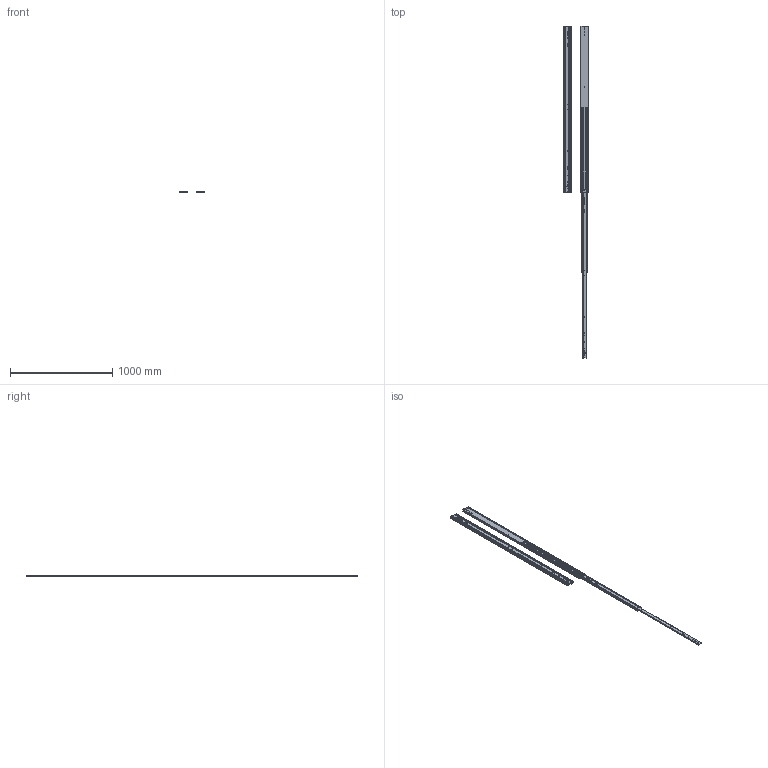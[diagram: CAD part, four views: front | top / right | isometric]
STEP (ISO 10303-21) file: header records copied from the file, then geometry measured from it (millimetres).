
FILE_DESCRIPTION((''),'2;1');
FILE_NAME('ASSEM1_ASM','2026-04-08T10:28:31',('T260078'),(''),'CREO PARAMETRIC BY PTC INC, 2025123','CREO PARAMETRIC BY PTC INC, 2025123','');
FILE_SCHEMA(('CONFIG_CONTROL_DESIGN','SHAPE_APPEARANCE_LAYERS_GROUPS'));
Length unit declared in the file: millimetre
Products named in the file (6): 76J01-64_X2_540B_X0_-M; 76J01-64_X2_540B_X0_-I; 76J01-64_X2_540B_X0_-O; 76J01-64_X2_540_X0__ASM; 76J01-64_X2_540B_X0_-_X2_5C5595_ASM; ASSEM1_ASM
Assembly tree (8 placements, depth 3):
  ASSEM1_ASM
    76J01-64_X2_540_X0__ASM
      76J01-64_X2_540B_X0_-M
      76J01-64_X2_540B_X0_-I
      76J01-64_X2_540B_X0_-O
    76J01-64_X2_540B_X0_-_X2_5C5595_ASM
      76J01-64_X2_540B_X0_-M
      76J01-64_X2_540B_X0_-I
      76J01-64_X2_540B_X0_-O
Bounding box: 245.44 x 3251.2 x 19.3 mm (x, y, z)
Volume: 2018461.8 mm3; surface area: 1796662.2 mm2
Topology: 6 solids, 6 shells, 380 faces, 1228 edges, 848 vertices
Faces by surface type: cylinder 212, plane 168
Entity records: 8390 total; most frequent: CARTESIAN_POINT 1335, DIRECTION 1244, ORIENTED_EDGE 1228, EDGE_CURVE 614, AXIS2_PLACEMENT_3D 444, VERTEX_POINT 424, VECTOR 356, LINE 356
